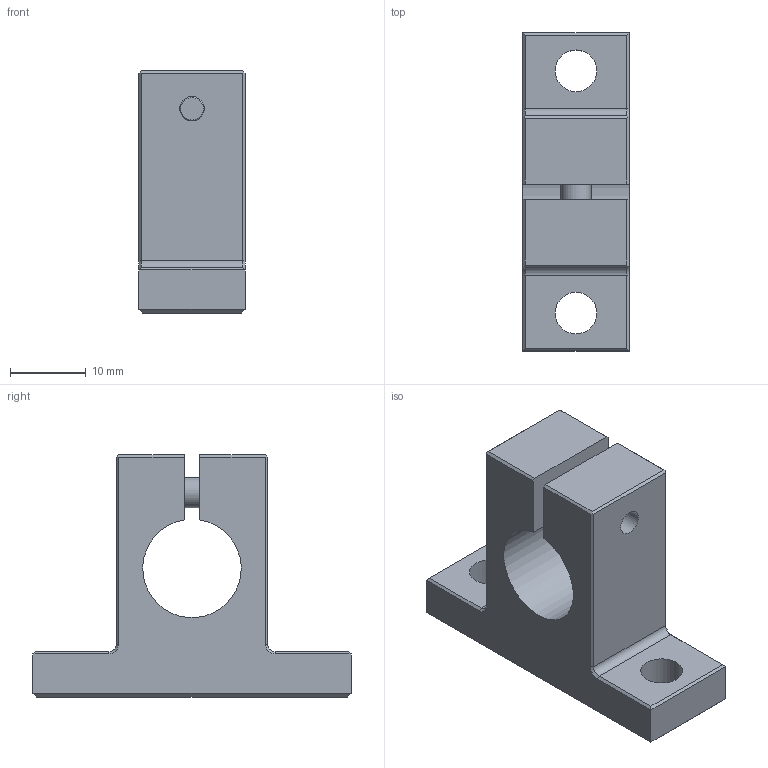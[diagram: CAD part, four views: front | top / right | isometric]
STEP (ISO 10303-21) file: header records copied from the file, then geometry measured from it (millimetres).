
FILE_DESCRIPTION((''),'2;1');
FILE_NAME('D:\製品 (図面)\カタログ用3D\シャフトブロック関連\STEP形式\SHA\SHA13.stp','2010-06-01T16:36:48',('Tsuchiya'),(''),'Autodesk Inventor 10','Autodesk Inventor 10','');
FILE_SCHEMA(('AUTOMOTIVE_DESIGN { 1 0 10303 214 1 1 1 1 }'));
Length unit declared in the file: millimetre
Products named in the file (1): SHA13
Bounding box: 14 x 42 x 32 mm (x, y, z)
Volume: 8305.3 mm3; surface area: 4482 mm2
Topology: 1 solids, 1 shells, 60 faces, 147 edges, 93 vertices
Faces by surface type: plane 42, cylinder 7, cone 6, bspline 4, torus 1
Full cylindrical faces by diameter (mm): 4 x1, 5.5 x2, 7 x1
Entity records: 1710 total; most frequent: CARTESIAN_POINT 347, DIRECTION 266, ORIENTED_EDGE 264, EDGE_CURVE 132, VECTOR 100, LINE 100, VERTEX_POINT 88, AXIS2_PLACEMENT_3D 83
